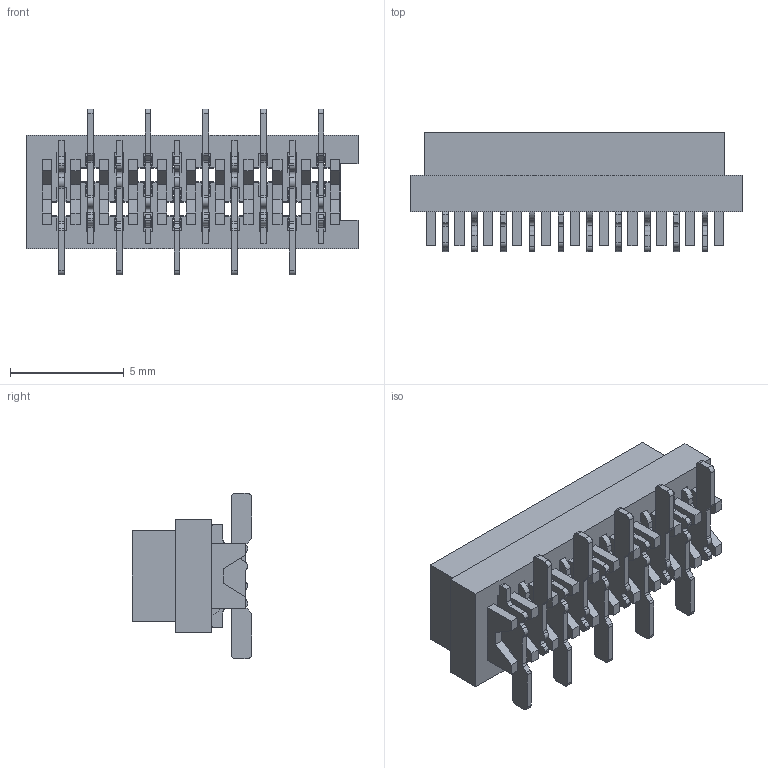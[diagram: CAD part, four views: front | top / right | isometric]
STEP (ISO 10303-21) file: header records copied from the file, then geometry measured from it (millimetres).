
FILE_DESCRIPTION (( 'STEP AP203' ), '1' );
FILE_NAME ('6022-C10MTDRU-1131126.STEP', '2024-11-26T08:28:59', ( '' ), ( '' ), 'SwSTEP 2.0', 'SolidWorks 2019', '' );
FILE_SCHEMA (( 'CONFIG_CONTROL_DESIGN' ));
Length unit declared in the file: millimetre
Products named in the file (2): 6022-C10MTDRU-1131126; 6022-C10MTDRU-P-1131126
Assembly tree (1 placements, depth 2):
  6022-C10MTDRU-1131126
    6022-C10MTDRU-P-1131126
Bounding box: 14.62 x 5.25 x 7.3 mm (x, y, z)
Volume: 210.3 mm3; surface area: 921.8 mm2
Topology: 1 solids, 1 shells, 1203 faces, 3885 edges, 2590 vertices
Faces by surface type: plane 803, cylinder 400
Entity records: 43135 total; most frequent: ORIENTED_EDGE 7770, CARTESIAN_POINT 7682, DIRECTION 7099, EDGE_CURVE 3885, VECTOR 3085, LINE 3085, VERTEX_POINT 2590, AXIS2_PLACEMENT_3D 2007
